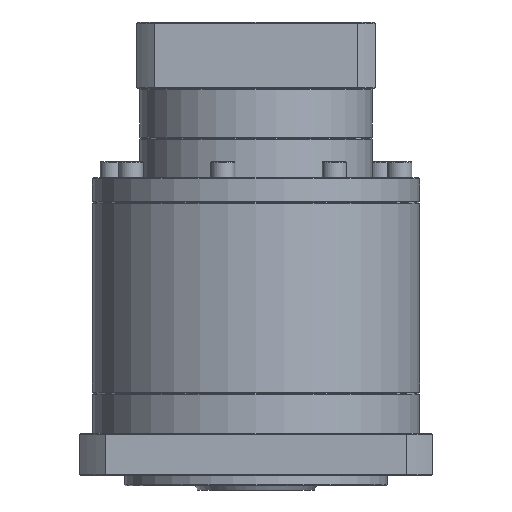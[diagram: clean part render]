
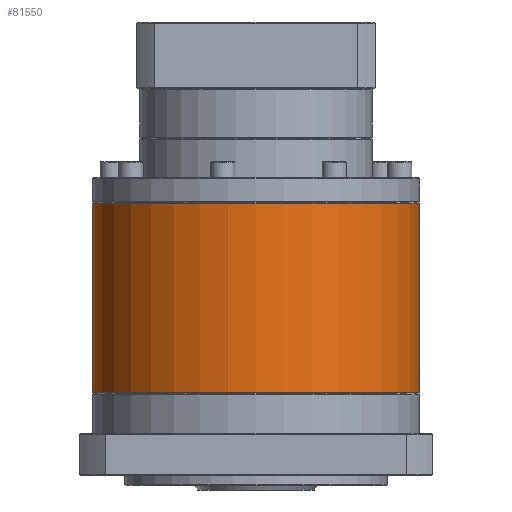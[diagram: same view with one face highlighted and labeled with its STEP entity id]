
A CAD part, front view. The second image highlights one B-rep face of the part: STEP entity #81550.
In plain terms, the highlighted cylindrical face has radius 81 mm (diameter 162 mm), a partial arc.
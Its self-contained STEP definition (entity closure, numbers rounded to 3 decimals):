
#2087 = EDGE_CURVE ( 'NONE', #43155, #77412, #32676, .T. ) ;
#3047 = VERTEX_POINT ( 'NONE', #94138 ) ;
#3695 = CARTESIAN_POINT ( 'NONE',  ( -130.013, -121.1, -93.269 ) ) ;
#3711 = CARTESIAN_POINT ( 'NONE',  ( 31.987, -121.1, 0.231 ) ) ;
#6812 = CARTESIAN_POINT ( 'NONE',  ( -49.013, -121.1, 0.231 ) ) ;
#7160 = DIRECTION ( 'NONE',  ( 0., 0., -1. ) ) ;
#8094 = ORIENTED_EDGE ( 'NONE', *, *, #48567, .T. ) ;
#14715 = ORIENTED_EDGE ( 'NONE', *, *, #21798, .F. ) ;
#18048 = CARTESIAN_POINT ( 'NONE',  ( -49.013, -121.1, 0.731 ) ) ;
#21798 = EDGE_CURVE ( 'NONE', #70371, #3047, #82453, .T. ) ;
#22342 = EDGE_LOOP ( 'NONE', ( #14715, #8094, #54654, #90384 ) ) ;
#23165 = CIRCLE ( 'NONE', #36536, 81. ) ;
#29694 = FACE_OUTER_BOUND ( 'NONE', #22342, .T. ) ;
#30280 = EDGE_CURVE ( 'NONE', #77412, #3047, #23165, .T. ) ;
#32676 = LINE ( 'NONE', #69558, #89731 ) ;
#36450 = CARTESIAN_POINT ( 'NONE',  ( -49.013, -121.1, -93.269 ) ) ;
#36536 = AXIS2_PLACEMENT_3D ( 'NONE', #36450, #98862, #67900 ) ;
#42265 = DIRECTION ( 'NONE',  ( 0., 0., -1. ) ) ;
#43155 = VERTEX_POINT ( 'NONE', #61127 ) ;
#45467 = CYLINDRICAL_SURFACE ( 'NONE', #64688, 81. ) ;
#45882 = DIRECTION ( 'NONE',  ( 0., 0., -1. ) ) ;
#48567 = EDGE_CURVE ( 'NONE', #70371, #43155, #54377, .T. ) ;
#54377 = CIRCLE ( 'NONE', #78432, 81. ) ;
#54654 = ORIENTED_EDGE ( 'NONE', *, *, #2087, .T. ) ;
#57039 = DIRECTION ( 'NONE',  ( 0., 0., -1. ) ) ;
#57346 = DIRECTION ( 'NONE',  ( -1., 0., 0. ) ) ;
#61127 = CARTESIAN_POINT ( 'NONE',  ( -130.013, -121.1, 0.231 ) ) ;
#64688 = AXIS2_PLACEMENT_3D ( 'NONE', #18048, #57039, #57346 ) ;
#65332 = VECTOR ( 'NONE', #42265, 1000. ) ;
#67900 = DIRECTION ( 'NONE',  ( -1., 0., 0. ) ) ;
#69558 = CARTESIAN_POINT ( 'NONE',  ( -130.013, -121.1, 0.731 ) ) ;
#70371 = VERTEX_POINT ( 'NONE', #3711 ) ;
#77412 = VERTEX_POINT ( 'NONE', #3695 ) ;
#78432 = AXIS2_PLACEMENT_3D ( 'NONE', #6812, #7160, #83934 ) ;
#81550 = ADVANCED_FACE ( 'NONE', ( #29694 ), #45467, .T. ) ;
#82453 = LINE ( 'NONE', #88786, #65332 ) ;
#83934 = DIRECTION ( 'NONE',  ( -1., 0., 0. ) ) ;
#88786 = CARTESIAN_POINT ( 'NONE',  ( 31.987, -121.1, 0.731 ) ) ;
#89731 = VECTOR ( 'NONE', #45882, 1000. ) ;
#90384 = ORIENTED_EDGE ( 'NONE', *, *, #30280, .T. ) ;
#94138 = CARTESIAN_POINT ( 'NONE',  ( 31.987, -121.1, -93.269 ) ) ;
#98862 = DIRECTION ( 'NONE',  ( 0., 0., 1. ) ) ;
